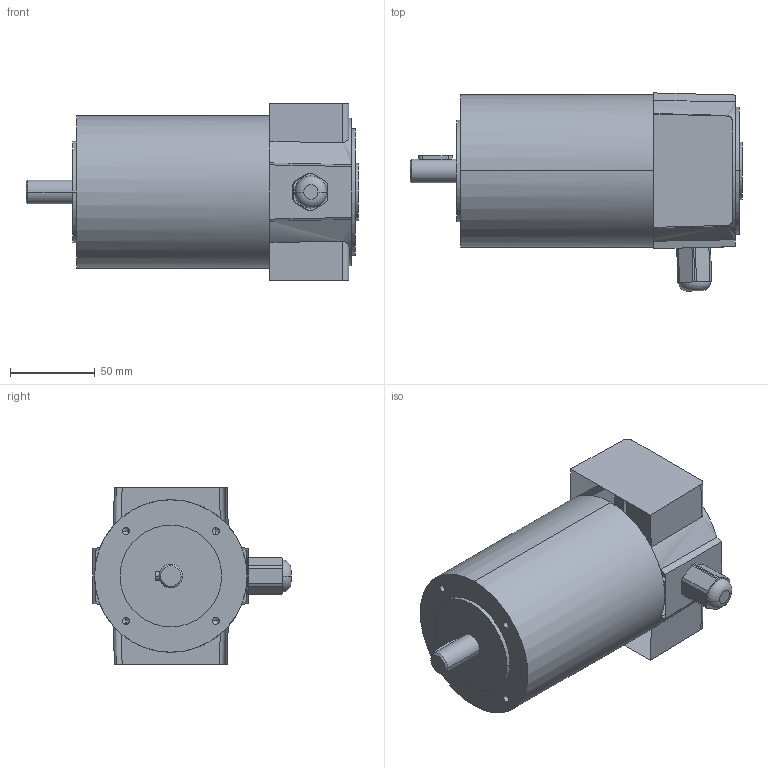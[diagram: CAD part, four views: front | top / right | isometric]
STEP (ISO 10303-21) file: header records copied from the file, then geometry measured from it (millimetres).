
FILE_DESCRIPTION(('OneSpaceDesigner STEP Export'),'2;1');
FILE_NAME('EP21_B14.stp','2008-07-07T15:37:58',(''),(''),'OneSpace Designer STEP processor (Jan. 2003) for AP214(CD)(Solid Model)','OneSpace Designer 12.01D 09-Jul-2004 (C) CoCreate Software GmbH','');
FILE_SCHEMA(('AUTOMOTIVE_DESIGN_CC2 {1 2 10303 214 -1 1 5 1}'));
Length unit declared in the file: millimetre
Products named in the file (2): EP21_B14
Assembly tree (1 placements, depth 2):
  EP21_B14
    EP21_B14
Bounding box: 196 x 116.99 x 105 mm (x, y, z)
Volume: 1136695.2 mm3; surface area: 70296.9 mm2
Topology: 1 solids, 1 shells, 92 faces, 226 edges, 143 vertices
Faces by surface type: cylinder 42, plane 36, cone 10, bspline 2, torus 2
Entity records: 4656 total; most frequent: CARTESIAN_POINT 2600, ORIENTED_EDGE 436, DIRECTION 344, EDGE_CURVE 218, VERTEX_POINT 143, AXIS2_PLACEMENT_3D 118, VECTOR 108, LINE 108
